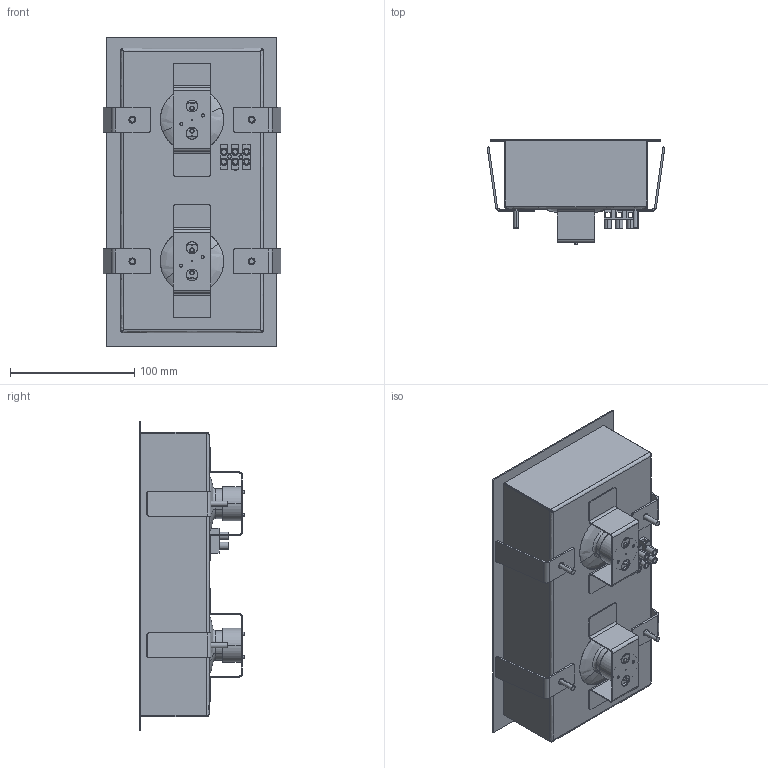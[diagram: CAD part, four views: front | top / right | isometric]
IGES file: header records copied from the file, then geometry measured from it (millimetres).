
Start section: SolidWorks IGES file using analytic representation for surfaces
Global section: file name: E:\3D lampy\Mod\Mod\Mod_9412,9416.IGS; native system: SolidWorks 2017; preprocessor: SolidWorks 2017; author: Asia; date: 180302.102850; units: millimetre
Bounding box: 143.02 x 84.5 x 249 mm (x, y, z)
Surface area: 293111.9 mm2 (no closed solid volume)
Topology: 0 solids, 0 shells, 1811 faces, 18044 edges, 18014 vertices
Faces by surface type: bspline 1117, revolution 694
